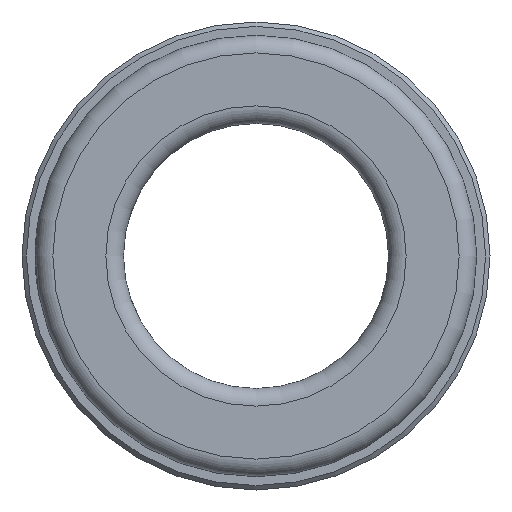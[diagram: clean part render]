
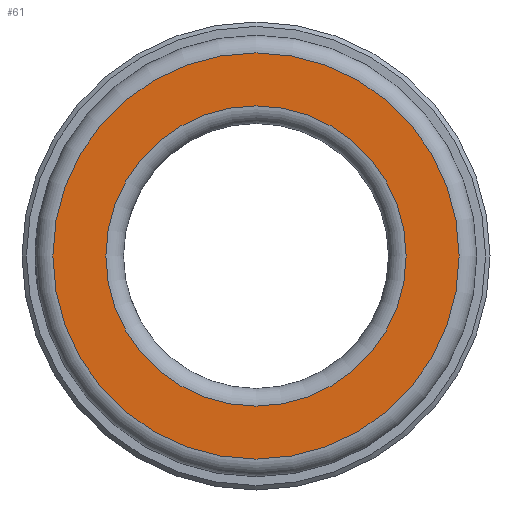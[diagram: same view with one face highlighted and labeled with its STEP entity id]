
A CAD part, left-side view. The second image highlights one B-rep face of the part: STEP entity #61.
In plain terms, the highlighted planar face has unit normal (-1, 0, 0).
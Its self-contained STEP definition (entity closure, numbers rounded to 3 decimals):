
#61 = ADVANCED_FACE( '', ( #137, #138 ), #139, .T. );
#137 = FACE_BOUND( '', #230, .T. );
#138 = FACE_OUTER_BOUND( '', #231, .T. );
#139 = PLANE( '', #232 );
#230 = EDGE_LOOP( '', ( #333 ) );
#231 = EDGE_LOOP( '', ( #334 ) );
#232 = AXIS2_PLACEMENT_3D( '', #335, #336, #337 );
#333 = ORIENTED_EDGE( '', *, *, #432, .T. );
#334 = ORIENTED_EDGE( '', *, *, #433, .F. );
#335 = CARTESIAN_POINT( '', ( -53., 23., 0. ) );
#336 = DIRECTION( '', ( -1., 0., 0. ) );
#337 = DIRECTION( '', ( 0., 0., 1. ) );
#432 = EDGE_CURVE( '', #487, #487, #488, .T. );
#433 = EDGE_CURVE( '', #489, #489, #490, .T. );
#487 = VERTEX_POINT( '', #682 );
#488 = CIRCLE( '', #683, 17. );
#489 = VERTEX_POINT( '', #684 );
#490 = CIRCLE( '', #685, 23. );
#682 = CARTESIAN_POINT( '', ( -53., 0., -17. ) );
#683 = AXIS2_PLACEMENT_3D( '', #744, #745, #746 );
#684 = CARTESIAN_POINT( '', ( -53., 0., -23. ) );
#685 = AXIS2_PLACEMENT_3D( '', #747, #748, #749 );
#744 = CARTESIAN_POINT( '', ( -53., 0., 0. ) );
#745 = DIRECTION( '', ( 1., 0., 0. ) );
#746 = DIRECTION( '', ( 0., 0., -1. ) );
#747 = CARTESIAN_POINT( '', ( -53., 0., 0. ) );
#748 = DIRECTION( '', ( 1., 0., 0. ) );
#749 = DIRECTION( '', ( 0., 0., -1. ) );
